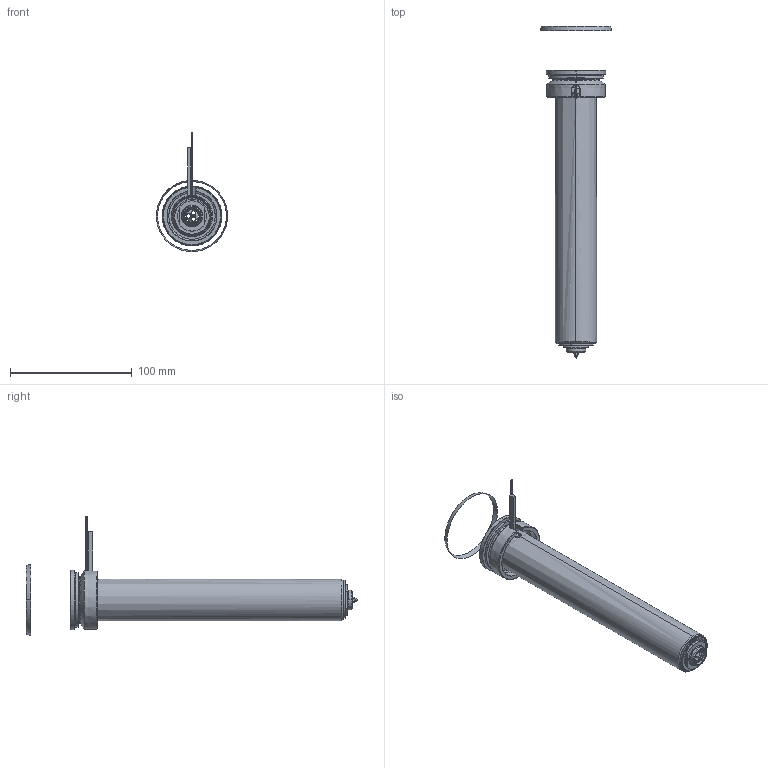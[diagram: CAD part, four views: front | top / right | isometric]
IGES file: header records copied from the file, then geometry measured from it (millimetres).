
Start section: SolidWorks IGES file using analytic representation for surfaces
Global section: file name: C:\Documents and Settings\ws-20\Desktop\TEM\UGEP5005-S-A-0 [Øf-0.80 ØC-13].IGS; native system: SolidWorks 2012; preprocessor: SolidWorks 2012; author: ws-20; date: 120426.101528; units: millimetre
Bounding box: 58.57 x 272.24 x 97.91 mm (x, y, z)
Surface area: 89220.4 mm2 (no closed solid volume)
Topology: 0 solids, 0 shells, 125 faces, 2378 edges, 2378 vertices
Faces by surface type: revolution 81, bspline 44
